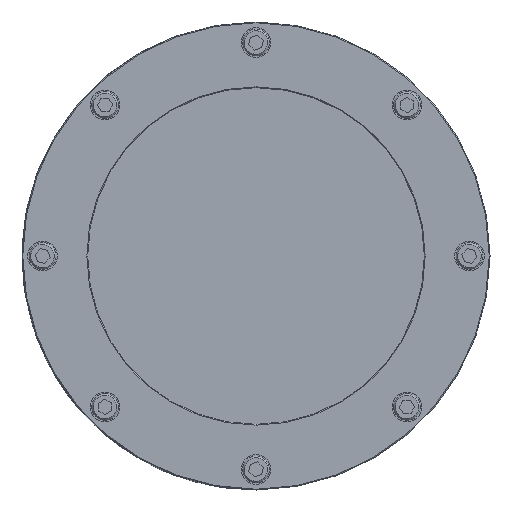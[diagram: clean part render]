
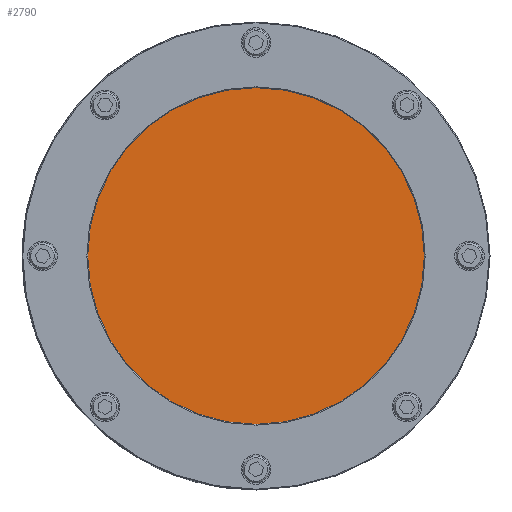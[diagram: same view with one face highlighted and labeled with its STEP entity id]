
A CAD part, front view. The second image highlights one B-rep face of the part: STEP entity #2790.
In plain terms, the highlighted planar face has unit normal (0, -1, 0).
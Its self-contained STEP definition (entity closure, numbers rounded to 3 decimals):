
#6 = EDGE_CURVE ( 'NONE', #4290, #3971, #3489, .T. ) ;
#80 = ORIENTED_EDGE ( 'NONE', *, *, #2278, .T. ) ;
#562 = CARTESIAN_POINT ( 'NONE',  ( 0., 0., 0. ) ) ;
#616 = AXIS2_PLACEMENT_3D ( 'NONE', #3543, #2849, #3846 ) ;
#782 = CARTESIAN_POINT ( 'NONE',  ( 0., 0., 0. ) ) ;
#1146 = AXIS2_PLACEMENT_3D ( 'NONE', #782, #1809, #1481 ) ;
#1193 = EDGE_LOOP ( 'NONE', ( #3186, #80 ) ) ;
#1415 = FACE_OUTER_BOUND ( 'NONE', #1193, .T. ) ;
#1481 = DIRECTION ( 'NONE',  ( 0., 0., 1. ) ) ;
#1530 = CIRCLE ( 'NONE', #616, 113.7 ) ;
#1624 = DIRECTION ( 'NONE',  ( 0., 0., 1. ) ) ;
#1809 = DIRECTION ( 'NONE',  ( 0., 1., 0. ) ) ;
#2278 = EDGE_CURVE ( 'NONE', #3971, #4290, #1530, .T. ) ;
#2324 = CARTESIAN_POINT ( 'NONE',  ( 0., 0., 113.7 ) ) ;
#2790 = ADVANCED_FACE ( 'NONE', ( #1415 ), #2815, .F. ) ;
#2815 = PLANE ( 'NONE',  #1146 ) ;
#2849 = DIRECTION ( 'NONE',  ( 0., -1., 0. ) ) ;
#3186 = ORIENTED_EDGE ( 'NONE', *, *, #6, .T. ) ;
#3489 = CIRCLE ( 'NONE', #3977, 113.7 ) ;
#3543 = CARTESIAN_POINT ( 'NONE',  ( 0., 0., 0. ) ) ;
#3601 = CARTESIAN_POINT ( 'NONE',  ( 0., 0., -113.7 ) ) ;
#3846 = DIRECTION ( 'NONE',  ( 0., 0., 1. ) ) ;
#3971 = VERTEX_POINT ( 'NONE', #3601 ) ;
#3977 = AXIS2_PLACEMENT_3D ( 'NONE', #562, #3982, #1624 ) ;
#3982 = DIRECTION ( 'NONE',  ( 0., -1., 0. ) ) ;
#4290 = VERTEX_POINT ( 'NONE', #2324 ) ;
